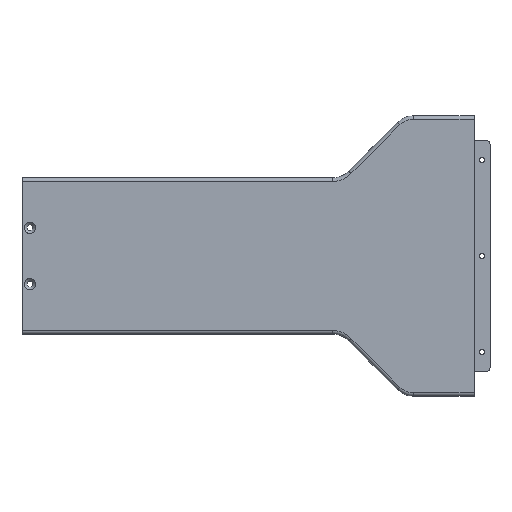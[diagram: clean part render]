
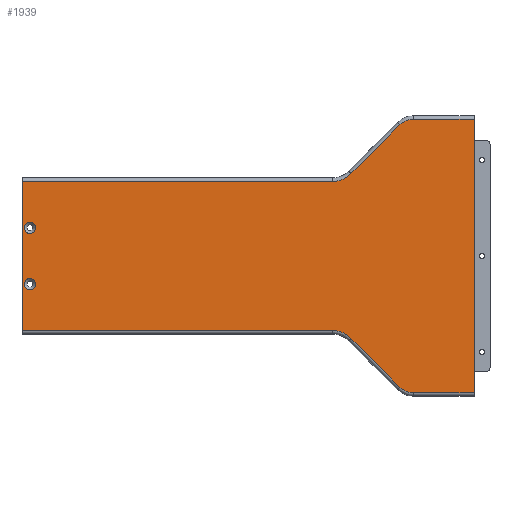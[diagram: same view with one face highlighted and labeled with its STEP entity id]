
A CAD part, top view. The second image highlights one B-rep face of the part: STEP entity #1939.
In plain terms, the highlighted planar face has unit normal (0, 0, 1).
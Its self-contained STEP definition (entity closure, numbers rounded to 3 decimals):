
#7 = VECTOR ( 'NONE', #3448, 1000. ) ;
#29 = LINE ( 'NONE', #757, #1965 ) ;
#37 = ORIENTED_EDGE ( 'NONE', *, *, #2453, .F. ) ;
#106 = LINE ( 'NONE', #691, #1796 ) ;
#119 = DIRECTION ( 'NONE',  ( 0., 0., 1. ) ) ;
#166 = VERTEX_POINT ( 'NONE', #2655 ) ;
#176 = EDGE_CURVE ( 'NONE', #2108, #2914, #29, .T. ) ;
#189 = FACE_OUTER_BOUND ( 'NONE', #3011, .T. ) ;
#276 = DIRECTION ( 'NONE',  ( 0.707, -0.707, 0. ) ) ;
#290 = DIRECTION ( 'NONE',  ( 1., 0., 0. ) ) ;
#297 = DIRECTION ( 'NONE',  ( 0., 0., 1. ) ) ;
#328 = VECTOR ( 'NONE', #276, 1000. ) ;
#383 = LINE ( 'NONE', #3250, #3565 ) ;
#384 = ORIENTED_EDGE ( 'NONE', *, *, #3192, .T. ) ;
#397 = ORIENTED_EDGE ( 'NONE', *, *, #3166, .F. ) ;
#413 = CIRCLE ( 'NONE', #3578, 2.5 ) ;
#416 = VERTEX_POINT ( 'NONE', #1179 ) ;
#418 = CARTESIAN_POINT ( 'NONE',  ( -194.558, 18.037, 0. ) ) ;
#445 = AXIS2_PLACEMENT_3D ( 'NONE', #2776, #3415, #2163 ) ;
#530 = CARTESIAN_POINT ( 'NONE',  ( -192.058, 18.037, 0. ) ) ;
#545 = VERTEX_POINT ( 'NONE', #2118 ) ;
#598 = VERTEX_POINT ( 'NONE', #3959 ) ;
#611 = LINE ( 'NONE', #902, #328 ) ;
#655 = CARTESIAN_POINT ( 'NONE',  ( -22.415, 57.537, 0. ) ) ;
#691 = CARTESIAN_POINT ( 'NONE',  ( 0., -54.963, 0. ) ) ;
#738 = ORIENTED_EDGE ( 'NONE', *, *, #3512, .T. ) ;
#757 = CARTESIAN_POINT ( 'NONE',  ( 4.443, -56.463, 0. ) ) ;
#767 = CARTESIAN_POINT ( 'NONE',  ( 4.443, 66.037, 0. ) ) ;
#883 = CARTESIAN_POINT ( 'NONE',  ( -195.557, 38.537, 0. ) ) ;
#885 = VERTEX_POINT ( 'NONE', #1003 ) ;
#902 = CARTESIAN_POINT ( 'NONE',  ( -28.426, -52.474, 0. ) ) ;
#904 = CARTESIAN_POINT ( 'NONE',  ( 0., 0., 0. ) ) ;
#990 = EDGE_CURVE ( 'NONE', #3850, #2108, #106, .T. ) ;
#1003 = CARTESIAN_POINT ( 'NONE',  ( -28.426, 63.547, 0. ) ) ;
#1050 = VERTEX_POINT ( 'NONE', #418 ) ;
#1083 = CIRCLE ( 'NONE', #445, 2.5 ) ;
#1090 = ORIENTED_EDGE ( 'NONE', *, *, #3790, .F. ) ;
#1124 = CARTESIAN_POINT ( 'NONE',  ( -58.199, -27.463, 0. ) ) ;
#1128 = CIRCLE ( 'NONE', #3477, 8.5 ) ;
#1144 = DIRECTION ( 'NONE',  ( 1., 0., 0. ) ) ;
#1179 = CARTESIAN_POINT ( 'NONE',  ( -189.558, -6.963, 0. ) ) ;
#1227 = ORIENTED_EDGE ( 'NONE', *, *, #3315, .T. ) ;
#1270 = DIRECTION ( 'NONE',  ( 1., 0., 0. ) ) ;
#1278 = VERTEX_POINT ( 'NONE', #2335 ) ;
#1323 = EDGE_LOOP ( 'NONE', ( #1090, #397 ) ) ;
#1378 = DIRECTION ( 'NONE',  ( 0., 1., 0. ) ) ;
#1442 = EDGE_CURVE ( 'NONE', #3262, #1278, #2078, .T. ) ;
#1503 = LINE ( 'NONE', #1124, #2227 ) ;
#1523 = CARTESIAN_POINT ( 'NONE',  ( -192.058, -6.963, 0. ) ) ;
#1530 = ORIENTED_EDGE ( 'NONE', *, *, #176, .T. ) ;
#1562 = VERTEX_POINT ( 'NONE', #883 ) ;
#1591 = CARTESIAN_POINT ( 'NONE',  ( 4.443, -54.963, 0. ) ) ;
#1743 = DIRECTION ( 'NONE',  ( 0., 0., -1. ) ) ;
#1796 = VECTOR ( 'NONE', #3203, 1000. ) ;
#1798 = EDGE_CURVE ( 'NONE', #166, #885, #1886, .T. ) ;
#1801 = DIRECTION ( 'NONE',  ( 0., 0., 1. ) ) ;
#1806 = DIRECTION ( 'NONE',  ( 0., 0., -1. ) ) ;
#1816 = DIRECTION ( 'NONE',  ( 0., 0., 1. ) ) ;
#1832 = DIRECTION ( 'NONE',  ( 1., 0., 0. ) ) ;
#1833 = LINE ( 'NONE', #2190, #7 ) ;
#1886 = CIRCLE ( 'NONE', #3059, 8.5 ) ;
#1923 = EDGE_LOOP ( 'NONE', ( #37, #2893 ) ) ;
#1926 = EDGE_CURVE ( 'NONE', #2914, #166, #3606, .T. ) ;
#1939 = ADVANCED_FACE ( 'NONE', ( #3802, #2261, #189 ), #2783, .T. ) ;
#1965 = VECTOR ( 'NONE', #1378, 1000. ) ;
#2077 = AXIS2_PLACEMENT_3D ( 'NONE', #2443, #1801, #3084 ) ;
#2078 = CIRCLE ( 'NONE', #3517, 11.5 ) ;
#2108 = VERTEX_POINT ( 'NONE', #1591 ) ;
#2118 = CARTESIAN_POINT ( 'NONE',  ( -50.068, -30.832, 0. ) ) ;
#2130 = CARTESIAN_POINT ( 'NONE',  ( -58.199, 50.037, 0. ) ) ;
#2136 = CARTESIAN_POINT ( 'NONE',  ( -22.415, -54.963, 0. ) ) ;
#2154 = CARTESIAN_POINT ( 'NONE',  ( 0., 66.037, 0. ) ) ;
#2163 = DIRECTION ( 'NONE',  ( 1., 0., 0. ) ) ;
#2190 = CARTESIAN_POINT ( 'NONE',  ( -50.068, 41.905, 0. ) ) ;
#2227 = VECTOR ( 'NONE', #2422, 1000. ) ;
#2254 = ORIENTED_EDGE ( 'NONE', *, *, #3795, .T. ) ;
#2261 = FACE_BOUND ( 'NONE', #1323, .T. ) ;
#2335 = CARTESIAN_POINT ( 'NONE',  ( -58.199, 38.537, 0. ) ) ;
#2394 = CIRCLE ( 'NONE', #3598, 11.5 ) ;
#2419 = ORIENTED_EDGE ( 'NONE', *, *, #1442, .T. ) ;
#2422 = DIRECTION ( 'NONE',  ( 1., 0., 0. ) ) ;
#2443 = CARTESIAN_POINT ( 'NONE',  ( -192.058, -6.963, 0. ) ) ;
#2448 = DIRECTION ( 'NONE',  ( 1., 0., 0. ) ) ;
#2453 = EDGE_CURVE ( 'NONE', #2978, #1050, #2565, .T. ) ;
#2525 = VERTEX_POINT ( 'NONE', #3925 ) ;
#2536 = EDGE_CURVE ( 'NONE', #1050, #2978, #1083, .T. ) ;
#2565 = CIRCLE ( 'NONE', #3758, 2.5 ) ;
#2620 = CARTESIAN_POINT ( 'NONE',  ( -22.415, -46.463, 0. ) ) ;
#2635 = DIRECTION ( 'NONE',  ( -1., 0., 0. ) ) ;
#2655 = CARTESIAN_POINT ( 'NONE',  ( -22.415, 66.037, 0. ) ) ;
#2687 = AXIS2_PLACEMENT_3D ( 'NONE', #904, #1816, #1832 ) ;
#2776 = CARTESIAN_POINT ( 'NONE',  ( -192.058, 18.037, 0. ) ) ;
#2783 = PLANE ( 'NONE',  #2687 ) ;
#2836 = DIRECTION ( 'NONE',  ( 0., 0., 1. ) ) ;
#2853 = VECTOR ( 'NONE', #2635, 1000. ) ;
#2863 = EDGE_CURVE ( 'NONE', #598, #3850, #1128, .T. ) ;
#2887 = CARTESIAN_POINT ( 'NONE',  ( -195.557, -27.463, 0. ) ) ;
#2893 = ORIENTED_EDGE ( 'NONE', *, *, #2536, .F. ) ;
#2914 = VERTEX_POINT ( 'NONE', #767 ) ;
#2920 = CARTESIAN_POINT ( 'NONE',  ( -189.558, 18.037, 0. ) ) ;
#2948 = EDGE_CURVE ( 'NONE', #1278, #1562, #3879, .T. ) ;
#2967 = DIRECTION ( 'NONE',  ( 1., 0., 0. ) ) ;
#2978 = VERTEX_POINT ( 'NONE', #2920 ) ;
#3011 = EDGE_LOOP ( 'NONE', ( #3501, #3469, #1530, #3633, #3938, #1227, #2419, #3484, #738, #3218, #384, #2254 ) ) ;
#3059 = AXIS2_PLACEMENT_3D ( 'NONE', #655, #2836, #1270 ) ;
#3084 = DIRECTION ( 'NONE',  ( 1., 0., 0. ) ) ;
#3103 = EDGE_CURVE ( 'NONE', #3382, #3186, #1503, .T. ) ;
#3166 = EDGE_CURVE ( 'NONE', #2525, #416, #413, .T. ) ;
#3186 = VERTEX_POINT ( 'NONE', #3350 ) ;
#3189 = VECTOR ( 'NONE', #3396, 1000. ) ;
#3192 = EDGE_CURVE ( 'NONE', #3186, #545, #2394, .T. ) ;
#3203 = DIRECTION ( 'NONE',  ( 1., 0., 0. ) ) ;
#3218 = ORIENTED_EDGE ( 'NONE', *, *, #3103, .T. ) ;
#3250 = CARTESIAN_POINT ( 'NONE',  ( -195.557, -56.463, 0. ) ) ;
#3262 = VERTEX_POINT ( 'NONE', #3753 ) ;
#3315 = EDGE_CURVE ( 'NONE', #885, #3262, #1833, .T. ) ;
#3350 = CARTESIAN_POINT ( 'NONE',  ( -58.199, -27.463, 0. ) ) ;
#3382 = VERTEX_POINT ( 'NONE', #2887 ) ;
#3396 = DIRECTION ( 'NONE',  ( -1., 0., 0. ) ) ;
#3415 = DIRECTION ( 'NONE',  ( 0., 0., 1. ) ) ;
#3448 = DIRECTION ( 'NONE',  ( -0.707, -0.707, 0. ) ) ;
#3469 = ORIENTED_EDGE ( 'NONE', *, *, #990, .T. ) ;
#3477 = AXIS2_PLACEMENT_3D ( 'NONE', #2620, #119, #2967 ) ;
#3484 = ORIENTED_EDGE ( 'NONE', *, *, #2948, .T. ) ;
#3501 = ORIENTED_EDGE ( 'NONE', *, *, #2863, .T. ) ;
#3512 = EDGE_CURVE ( 'NONE', #1562, #3382, #383, .T. ) ;
#3517 = AXIS2_PLACEMENT_3D ( 'NONE', #2130, #1743, #290 ) ;
#3565 = VECTOR ( 'NONE', #3827, 1000. ) ;
#3578 = AXIS2_PLACEMENT_3D ( 'NONE', #1523, #297, #3653 ) ;
#3598 = AXIS2_PLACEMENT_3D ( 'NONE', #3991, #1806, #2448 ) ;
#3605 = CIRCLE ( 'NONE', #2077, 2.5 ) ;
#3606 = LINE ( 'NONE', #2154, #3189 ) ;
#3633 = ORIENTED_EDGE ( 'NONE', *, *, #1926, .T. ) ;
#3644 = DIRECTION ( 'NONE',  ( 0., 0., 1. ) ) ;
#3653 = DIRECTION ( 'NONE',  ( 1., 0., 0. ) ) ;
#3753 = CARTESIAN_POINT ( 'NONE',  ( -50.068, 41.905, 0. ) ) ;
#3758 = AXIS2_PLACEMENT_3D ( 'NONE', #530, #3644, #1144 ) ;
#3790 = EDGE_CURVE ( 'NONE', #416, #2525, #3605, .T. ) ;
#3795 = EDGE_CURVE ( 'NONE', #545, #598, #611, .T. ) ;
#3802 = FACE_BOUND ( 'NONE', #1923, .T. ) ;
#3803 = CARTESIAN_POINT ( 'NONE',  ( -195.557, 38.537, 0. ) ) ;
#3827 = DIRECTION ( 'NONE',  ( 0., -1., 0. ) ) ;
#3850 = VERTEX_POINT ( 'NONE', #2136 ) ;
#3879 = LINE ( 'NONE', #3803, #2853 ) ;
#3925 = CARTESIAN_POINT ( 'NONE',  ( -194.558, -6.963, 0. ) ) ;
#3938 = ORIENTED_EDGE ( 'NONE', *, *, #1798, .T. ) ;
#3959 = CARTESIAN_POINT ( 'NONE',  ( -28.426, -52.474, 0. ) ) ;
#3991 = CARTESIAN_POINT ( 'NONE',  ( -58.199, -38.963, 0. ) ) ;
